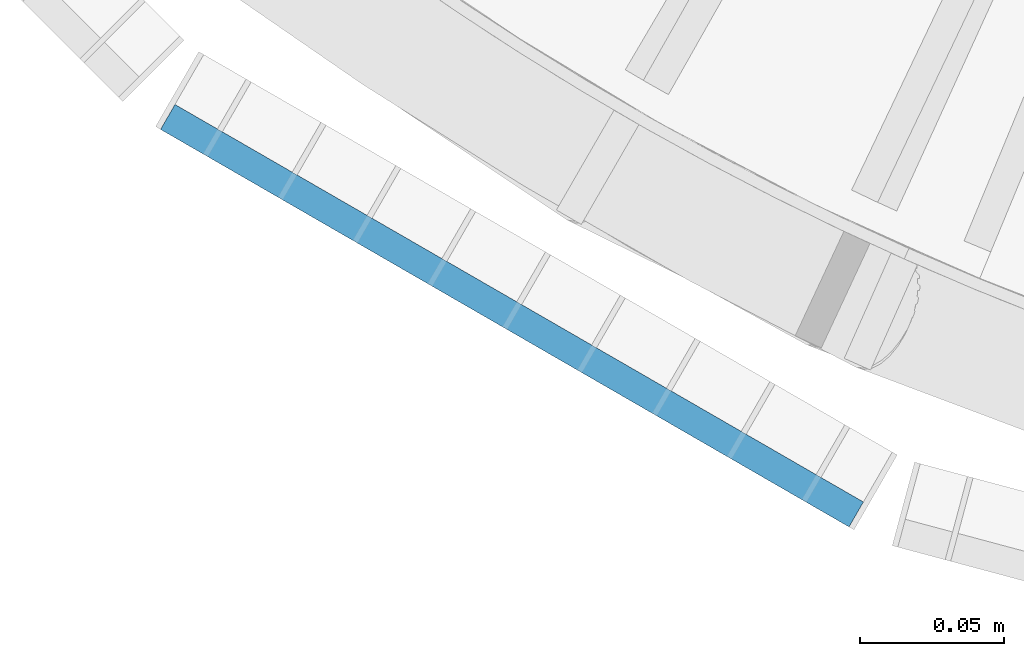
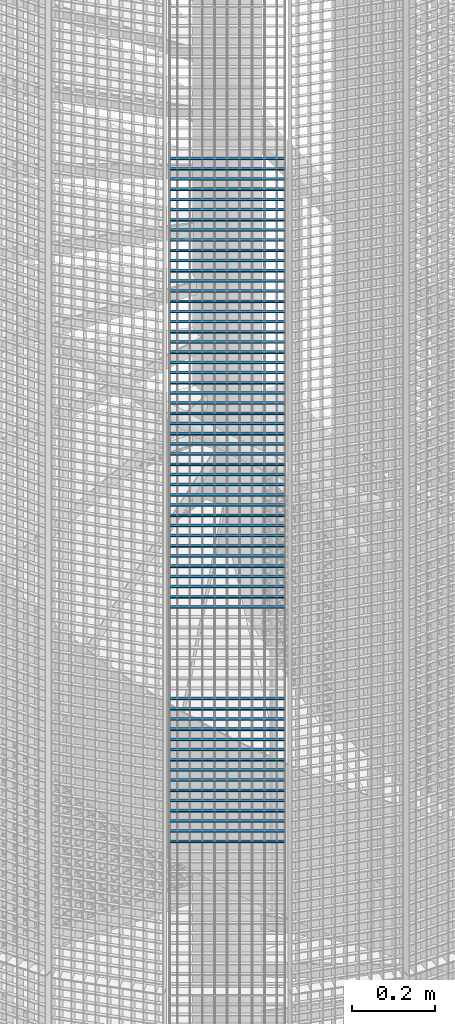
# One storey, part 329 of 1148: 60 beams, 1 element without a shape of its own.
"""IFC2X3 building model written with IfcOpenShell, lengths in millimetres."""

from ifc_helpers import new_model, si_unit, frame, origin_with_axes, origin_2d_with_axis, place, context, subcontext, project, spatial, rectangle, extrude, material, type_object, element, aggregate, save


model = new_model("IFC2X3")

# Units and contexts
model_context = context("Model", 3, precision=1e-05, world=origin_with_axes())
body_context = subcontext(model_context, "Body", "Model", "MODEL_VIEW")
ifc_project = project(units=[si_unit("LENGTHUNIT", "METRE", prefix="MILLI"), si_unit("AREAUNIT", "SQUARE_METRE"), si_unit("VOLUMEUNIT", "CUBIC_METRE"), si_unit("MASSUNIT", "GRAM", prefix="KILO"), si_unit("TIMEUNIT", "SECOND"), si_unit("PLANEANGLEUNIT", "RADIAN"), si_unit("SOLIDANGLEUNIT", "STERADIAN"), si_unit("THERMODYNAMICTEMPERATUREUNIT", "DEGREE_CELSIUS"), si_unit("LUMINOUSINTENSITYUNIT", "LUMEN")], contexts=[model_context])

# Site, building, storey
site_placement = place(None, origin_with_axes())
site = spatial("IfcSite", under=ifc_project, at=site_placement, Name="Undefined", CompositionType="ELEMENT")
building_placement = place(site_placement, origin_with_axes())
building = spatial("IfcBuilding", under=site, at=building_placement, Name="Undefined", CompositionType="ELEMENT")
storey_placement = place(building_placement, origin_with_axes())
storey = spatial("IfcBuildingStorey", under=building, at=storey_placement, Name="Undefined", CompositionType="ELEMENT", Elevation=0.0)

# Assembly, beams
assembly_placement = place(storey_placement, origin_with_axes())
assembly = element("IfcElementAssembly", 1, at=assembly_placement, inside=storey, Name="BORDURE", AssemblyPlace="NOTDEFINED", PredefinedType="NOTDEFINED")
ifc_material = material(Name="STEEL/S235JR")
beam_type = type_object("IfcBeamType", Name="PL2*10", PredefinedType="NOTDEFINED")
beam_1_placement = place(assembly_placement, frame((21162.7680445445, -1033.29996828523, 17460.0), z_axis=(-0.49999999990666, -0.866025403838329, 0.0), x_axis=(-0.866025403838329, 0.499999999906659, 0.0)))
beam_1 = element("IfcBeam", 2, at=beam_1_placement, type_object=beam_type, material=ifc_material, Name="ENTRETOISE", context=body_context, shape_type="SweptSolid", body=[
    extrude(rectangle(XDim=2.0, YDim=10.0, at=origin_2d_with_axis()), frame((275.999999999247, 9.09494701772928e-13, 1.53210777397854e-14), z_axis=(-1.0, 0.0, 0.0), x_axis=(0.0, -1.0, 0.0)), (0.0, 0.0, 1.0), 276.0),
])
beam_2_placement = place(assembly_placement, frame((21162.7680445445, -1033.29996828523, 17430.0), z_axis=(-0.49999999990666, -0.866025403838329, 0.0), x_axis=(-0.866025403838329, 0.499999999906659, 0.0)))
beam_2 = element("IfcBeam", 3, at=beam_2_placement, type_object=beam_type, material=ifc_material, Name="ENTRETOISE", context=body_context, shape_type="SweptSolid", body=[
    extrude(rectangle(XDim=2.0, YDim=10.0, at=origin_2d_with_axis()), frame((275.999999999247, 9.09494701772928e-13, 1.53210777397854e-14), z_axis=(-1.0, 0.0, 0.0), x_axis=(0.0, -1.0, 0.0)), (0.0, 0.0, 1.0), 276.0),
])
beam_3_placement = place(assembly_placement, frame((21162.7680445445, -1033.29996828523, 17400.0), z_axis=(-0.49999999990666, -0.866025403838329, 0.0), x_axis=(-0.866025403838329, 0.499999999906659, 0.0)))
beam_3 = element("IfcBeam", 4, at=beam_3_placement, type_object=beam_type, material=ifc_material, Name="ENTRETOISE", context=body_context, shape_type="SweptSolid", body=[
    extrude(rectangle(XDim=2.0, YDim=10.0, at=origin_2d_with_axis()), frame((275.999999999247, 9.09494701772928e-13, 1.53210777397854e-14), z_axis=(-1.0, 0.0, 0.0), x_axis=(0.0, -1.0, 0.0)), (0.0, 0.0, 1.0), 276.0),
])
beam_4_placement = place(assembly_placement, frame((21162.7680445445, -1033.29996828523, 17370.0), z_axis=(-0.49999999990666, -0.866025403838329, 0.0), x_axis=(-0.866025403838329, 0.499999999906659, 0.0)))
beam_4 = element("IfcBeam", 5, at=beam_4_placement, type_object=beam_type, material=ifc_material, Name="ENTRETOISE", context=body_context, shape_type="SweptSolid", body=[
    extrude(rectangle(XDim=2.0, YDim=10.0, at=origin_2d_with_axis()), frame((275.999999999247, 9.09494701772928e-13, 1.53210777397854e-14), z_axis=(-1.0, 0.0, 0.0), x_axis=(0.0, -1.0, 0.0)), (0.0, 0.0, 1.0), 276.0),
])
beam_5_placement = place(assembly_placement, frame((21162.7680445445, -1033.29996828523, 17340.0), z_axis=(-0.49999999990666, -0.866025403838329, 0.0), x_axis=(-0.866025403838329, 0.499999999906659, 0.0)))
beam_5 = element("IfcBeam", 6, at=beam_5_placement, type_object=beam_type, material=ifc_material, Name="ENTRETOISE", context=body_context, shape_type="SweptSolid", body=[
    extrude(rectangle(XDim=2.0, YDim=10.0, at=origin_2d_with_axis()), frame((275.999999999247, 9.09494701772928e-13, 1.53210777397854e-14), z_axis=(-1.0, 0.0, 0.0), x_axis=(0.0, -1.0, 0.0)), (0.0, 0.0, 1.0), 276.0),
])
beam_6_placement = place(assembly_placement, frame((21162.7680445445, -1033.29996828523, 17310.0), z_axis=(-0.49999999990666, -0.866025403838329, 0.0), x_axis=(-0.866025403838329, 0.499999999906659, 0.0)))
beam_6 = element("IfcBeam", 7, at=beam_6_placement, type_object=beam_type, material=ifc_material, Name="ENTRETOISE", context=body_context, shape_type="SweptSolid", body=[
    extrude(rectangle(XDim=2.0, YDim=10.0, at=origin_2d_with_axis()), frame((275.999999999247, 9.09494701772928e-13, 1.53210777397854e-14), z_axis=(-1.0, 0.0, 0.0), x_axis=(0.0, -1.0, 0.0)), (0.0, 0.0, 1.0), 276.0),
])
beam_7_placement = place(assembly_placement, frame((21162.7680445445, -1033.29996828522, 17280.0), z_axis=(-0.49999999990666, -0.866025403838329, 0.0), x_axis=(-0.866025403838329, 0.499999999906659, 0.0)))
beam_7 = element("IfcBeam", 8, at=beam_7_placement, type_object=beam_type, material=ifc_material, Name="ENTRETOISE", context=body_context, shape_type="SweptSolid", body=[
    extrude(rectangle(XDim=2.0, YDim=10.0, at=origin_2d_with_axis()), frame((275.999999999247, 9.09494701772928e-13, 1.53210777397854e-14), z_axis=(-1.0, 0.0, 0.0), x_axis=(0.0, -1.0, 0.0)), (0.0, 0.0, 1.0), 276.0),
])
beam_8_placement = place(assembly_placement, frame((21162.7680445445, -1033.29996828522, 17250.0), z_axis=(-0.49999999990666, -0.866025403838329, 0.0), x_axis=(-0.866025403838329, 0.499999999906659, 0.0)))
beam_8 = element("IfcBeam", 9, at=beam_8_placement, type_object=beam_type, material=ifc_material, Name="ENTRETOISE", context=body_context, shape_type="SweptSolid", body=[
    extrude(rectangle(XDim=2.0, YDim=10.0, at=origin_2d_with_axis()), frame((275.999999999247, 9.09494701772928e-13, 1.53210777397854e-14), z_axis=(-1.0, 0.0, 0.0), x_axis=(0.0, -1.0, 0.0)), (0.0, 0.0, 1.0), 276.0),
])
beam_9_placement = place(assembly_placement, frame((21162.7680445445, -1033.29996828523, 17220.0), z_axis=(-0.49999999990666, -0.866025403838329, 0.0), x_axis=(-0.866025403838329, 0.499999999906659, 0.0)))
beam_9 = element("IfcBeam", 10, at=beam_9_placement, type_object=beam_type, material=ifc_material, Name="ENTRETOISE", context=body_context, shape_type="SweptSolid", body=[
    extrude(rectangle(XDim=2.0, YDim=10.0, at=origin_2d_with_axis()), frame((275.999999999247, 9.09494701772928e-13, 1.53210777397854e-14), z_axis=(-1.0, 0.0, 0.0), x_axis=(0.0, -1.0, 0.0)), (0.0, 0.0, 1.0), 276.0),
])
beam_10_placement = place(assembly_placement, frame((21162.7680445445, -1033.29996828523, 17190.0), z_axis=(-0.49999999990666, -0.866025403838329, 0.0), x_axis=(-0.866025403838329, 0.499999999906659, 0.0)))
beam_10 = element("IfcBeam", 11, at=beam_10_placement, type_object=beam_type, material=ifc_material, Name="ENTRETOISE", context=body_context, shape_type="SweptSolid", body=[
    extrude(rectangle(XDim=2.0, YDim=10.0, at=origin_2d_with_axis()), frame((275.999999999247, 9.09494701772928e-13, 1.53210777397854e-14), z_axis=(-1.0, 0.0, 0.0), x_axis=(0.0, -1.0, 0.0)), (0.0, 0.0, 1.0), 276.0),
])
beam_11_placement = place(assembly_placement, frame((21162.7680445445, -1033.29996828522, 17160.0), z_axis=(-0.49999999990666, -0.866025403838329, 0.0), x_axis=(-0.866025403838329, 0.499999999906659, 0.0)))
beam_11 = element("IfcBeam", 12, at=beam_11_placement, type_object=beam_type, material=ifc_material, Name="ENTRETOISE", context=body_context, shape_type="SweptSolid", body=[
    extrude(rectangle(XDim=2.0, YDim=10.0, at=origin_2d_with_axis()), frame((275.999999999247, 9.09494701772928e-13, 1.53210777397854e-14), z_axis=(-1.0, 0.0, 0.0), x_axis=(0.0, -1.0, 0.0)), (0.0, 0.0, 1.0), 276.0),
])
beam_12_placement = place(assembly_placement, frame((21162.7680445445, -1033.29996828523, 17130.0), z_axis=(-0.49999999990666, -0.866025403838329, 0.0), x_axis=(-0.866025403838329, 0.499999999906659, 0.0)))
beam_12 = element("IfcBeam", 13, at=beam_12_placement, type_object=beam_type, material=ifc_material, Name="ENTRETOISE", context=body_context, shape_type="SweptSolid", body=[
    extrude(rectangle(XDim=2.0, YDim=10.0, at=origin_2d_with_axis()), frame((275.999999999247, 9.09494701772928e-13, 1.53210777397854e-14), z_axis=(-1.0, 0.0, 0.0), x_axis=(0.0, -1.0, 0.0)), (0.0, 0.0, 1.0), 276.0),
])
beam_13_placement = place(assembly_placement, frame((21162.7680445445, -1033.29996828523, 17100.0), z_axis=(-0.49999999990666, -0.866025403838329, 0.0), x_axis=(-0.866025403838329, 0.499999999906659, 0.0)))
beam_13 = element("IfcBeam", 14, at=beam_13_placement, type_object=beam_type, material=ifc_material, Name="ENTRETOISE", context=body_context, shape_type="SweptSolid", body=[
    extrude(rectangle(XDim=2.0, YDim=10.0, at=origin_2d_with_axis()), frame((275.999999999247, 9.09494701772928e-13, 1.53210777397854e-14), z_axis=(-1.0, 0.0, 0.0), x_axis=(0.0, -1.0, 0.0)), (0.0, 0.0, 1.0), 276.0),
])
beam_14_placement = place(assembly_placement, frame((21162.7680445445, -1033.29996828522, 17070.0), z_axis=(-0.49999999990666, -0.866025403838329, 0.0), x_axis=(-0.866025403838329, 0.499999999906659, 0.0)))
beam_14 = element("IfcBeam", 15, at=beam_14_placement, type_object=beam_type, material=ifc_material, Name="ENTRETOISE", context=body_context, shape_type="SweptSolid", body=[
    extrude(rectangle(XDim=2.0, YDim=10.0, at=origin_2d_with_axis()), frame((275.999999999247, 9.09494701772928e-13, 1.53210777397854e-14), z_axis=(-1.0, 0.0, 0.0), x_axis=(0.0, -1.0, 0.0)), (0.0, 0.0, 1.0), 276.0),
])
beam_15_placement = place(assembly_placement, frame((21162.7680445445, -1033.29996828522, 17040.0), z_axis=(-0.49999999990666, -0.866025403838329, 0.0), x_axis=(-0.866025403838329, 0.499999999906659, 0.0)))
beam_15 = element("IfcBeam", 16, at=beam_15_placement, type_object=beam_type, material=ifc_material, Name="ENTRETOISE", context=body_context, shape_type="SweptSolid", body=[
    extrude(rectangle(XDim=2.0, YDim=10.0, at=origin_2d_with_axis()), frame((275.999999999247, 9.09494701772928e-13, 1.53210777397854e-14), z_axis=(-1.0, 0.0, 0.0), x_axis=(0.0, -1.0, 0.0)), (0.0, 0.0, 1.0), 276.0),
])
beam_16_placement = place(assembly_placement, frame((21162.7680445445, -1033.29996828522, 17010.0), z_axis=(-0.49999999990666, -0.866025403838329, 0.0), x_axis=(-0.866025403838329, 0.499999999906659, 0.0)))
beam_16 = element("IfcBeam", 17, at=beam_16_placement, type_object=beam_type, material=ifc_material, Name="ENTRETOISE", context=body_context, shape_type="SweptSolid", body=[
    extrude(rectangle(XDim=2.0, YDim=10.0, at=origin_2d_with_axis()), frame((275.999999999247, 9.09494701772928e-13, 1.53210777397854e-14), z_axis=(-1.0, 0.0, 0.0), x_axis=(0.0, -1.0, 0.0)), (0.0, 0.0, 1.0), 276.0),
])
beam_17_placement = place(assembly_placement, frame((21162.7680445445, -1033.29996828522, 16980.0), z_axis=(-0.49999999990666, -0.866025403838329, 0.0), x_axis=(-0.866025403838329, 0.499999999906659, 0.0)))
beam_17 = element("IfcBeam", 18, at=beam_17_placement, type_object=beam_type, material=ifc_material, Name="ENTRETOISE", context=body_context, shape_type="SweptSolid", body=[
    extrude(rectangle(XDim=2.0, YDim=10.0, at=origin_2d_with_axis()), frame((275.999999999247, 9.09494701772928e-13, 1.53210777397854e-14), z_axis=(-1.0, 0.0, 0.0), x_axis=(0.0, -1.0, 0.0)), (0.0, 0.0, 1.0), 276.0),
])
beam_18_placement = place(assembly_placement, frame((21162.7680445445, -1033.29996828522, 16950.0), z_axis=(-0.49999999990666, -0.866025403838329, 0.0), x_axis=(-0.866025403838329, 0.499999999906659, 0.0)))
beam_18 = element("IfcBeam", 19, at=beam_18_placement, type_object=beam_type, material=ifc_material, Name="ENTRETOISE", context=body_context, shape_type="SweptSolid", body=[
    extrude(rectangle(XDim=2.0, YDim=10.0, at=origin_2d_with_axis()), frame((275.999999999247, 9.09494701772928e-13, 1.53210777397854e-14), z_axis=(-1.0, 0.0, 0.0), x_axis=(0.0, -1.0, 0.0)), (0.0, 0.0, 1.0), 276.0),
])
beam_19_placement = place(assembly_placement, frame((21162.7680445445, -1033.29996828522, 16920.0), z_axis=(-0.49999999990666, -0.866025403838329, 0.0), x_axis=(-0.866025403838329, 0.499999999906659, 0.0)))
beam_19 = element("IfcBeam", 20, at=beam_19_placement, type_object=beam_type, material=ifc_material, Name="ENTRETOISE", context=body_context, shape_type="SweptSolid", body=[
    extrude(rectangle(XDim=2.0, YDim=10.0, at=origin_2d_with_axis()), frame((275.999999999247, 9.09494701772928e-13, 1.53210777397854e-14), z_axis=(-1.0, 0.0, 0.0), x_axis=(0.0, -1.0, 0.0)), (0.0, 0.0, 1.0), 276.0),
])
beam_20_placement = place(assembly_placement, frame((21162.7680445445, -1033.29996828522, 16890.0), z_axis=(-0.49999999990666, -0.866025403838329, 0.0), x_axis=(-0.866025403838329, 0.499999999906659, 0.0)))
beam_20 = element("IfcBeam", 21, at=beam_20_placement, type_object=beam_type, material=ifc_material, Name="ENTRETOISE", context=body_context, shape_type="SweptSolid", body=[
    extrude(rectangle(XDim=2.0, YDim=10.0, at=origin_2d_with_axis()), frame((275.999999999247, 9.09494701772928e-13, 1.53210777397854e-14), z_axis=(-1.0, 0.0, 0.0), x_axis=(0.0, -1.0, 0.0)), (0.0, 0.0, 1.0), 276.0),
])
beam_21_placement = place(assembly_placement, frame((21162.7680445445, -1033.29996828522, 16860.0), z_axis=(-0.49999999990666, -0.866025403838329, 0.0), x_axis=(-0.866025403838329, 0.499999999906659, 0.0)))
beam_21 = element("IfcBeam", 22, at=beam_21_placement, type_object=beam_type, material=ifc_material, Name="ENTRETOISE", context=body_context, shape_type="SweptSolid", body=[
    extrude(rectangle(XDim=2.0, YDim=10.0, at=origin_2d_with_axis()), frame((275.999999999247, 9.09494701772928e-13, 1.53210777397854e-14), z_axis=(-1.0, 0.0, 0.0), x_axis=(0.0, -1.0, 0.0)), (0.0, 0.0, 1.0), 276.0),
])
beam_22_placement = place(assembly_placement, frame((21162.7680445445, -1033.29996828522, 16830.0), z_axis=(-0.49999999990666, -0.866025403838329, 0.0), x_axis=(-0.866025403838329, 0.499999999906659, 0.0)))
beam_22 = element("IfcBeam", 23, at=beam_22_placement, type_object=beam_type, material=ifc_material, Name="ENTRETOISE", context=body_context, shape_type="SweptSolid", body=[
    extrude(rectangle(XDim=2.0, YDim=10.0, at=origin_2d_with_axis()), frame((275.999999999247, 9.09494701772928e-13, 1.53210777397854e-14), z_axis=(-1.0, 0.0, 0.0), x_axis=(0.0, -1.0, 0.0)), (0.0, 0.0, 1.0), 276.0),
])
beam_23_placement = place(assembly_placement, frame((21162.7680445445, -1033.29996828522, 16800.0), z_axis=(-0.49999999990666, -0.866025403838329, 0.0), x_axis=(-0.866025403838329, 0.499999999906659, 0.0)))
beam_23 = element("IfcBeam", 24, at=beam_23_placement, type_object=beam_type, material=ifc_material, Name="ENTRETOISE", context=body_context, shape_type="SweptSolid", body=[
    extrude(rectangle(XDim=2.0, YDim=10.0, at=origin_2d_with_axis()), frame((275.999999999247, 9.09494701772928e-13, 1.53210777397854e-14), z_axis=(-1.0, 0.0, 0.0), x_axis=(0.0, -1.0, 0.0)), (0.0, 0.0, 1.0), 276.0),
])
beam_24_placement = place(assembly_placement, frame((21162.7680445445, -1033.29996828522, 16770.0), z_axis=(-0.49999999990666, -0.866025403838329, 0.0), x_axis=(-0.866025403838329, 0.499999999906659, 0.0)))
beam_24 = element("IfcBeam", 25, at=beam_24_placement, type_object=beam_type, material=ifc_material, Name="ENTRETOISE", context=body_context, shape_type="SweptSolid", body=[
    extrude(rectangle(XDim=2.0, YDim=10.0, at=origin_2d_with_axis()), frame((275.999999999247, 9.09494701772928e-13, 1.53210777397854e-14), z_axis=(-1.0, 0.0, 0.0), x_axis=(0.0, -1.0, 0.0)), (0.0, 0.0, 1.0), 276.0),
])
beam_25_placement = place(assembly_placement, frame((21162.7680445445, -1033.29996828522, 16740.0), z_axis=(-0.49999999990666, -0.866025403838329, 0.0), x_axis=(-0.866025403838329, 0.499999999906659, 0.0)))
beam_25 = element("IfcBeam", 26, at=beam_25_placement, type_object=beam_type, material=ifc_material, Name="ENTRETOISE", context=body_context, shape_type="SweptSolid", body=[
    extrude(rectangle(XDim=2.0, YDim=10.0, at=origin_2d_with_axis()), frame((275.999999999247, 9.09494701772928e-13, 1.53210777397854e-14), z_axis=(-1.0, 0.0, 0.0), x_axis=(0.0, -1.0, 0.0)), (0.0, 0.0, 1.0), 276.0),
])
beam_26_placement = place(assembly_placement, frame((21162.7680445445, -1033.29996828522, 16710.0), z_axis=(-0.49999999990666, -0.866025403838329, 0.0), x_axis=(-0.866025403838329, 0.499999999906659, 0.0)))
beam_26 = element("IfcBeam", 27, at=beam_26_placement, type_object=beam_type, material=ifc_material, Name="ENTRETOISE", context=body_context, shape_type="SweptSolid", body=[
    extrude(rectangle(XDim=2.0, YDim=10.0, at=origin_2d_with_axis()), frame((275.999999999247, 9.09494701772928e-13, 1.53210777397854e-14), z_axis=(-1.0, 0.0, 0.0), x_axis=(0.0, -1.0, 0.0)), (0.0, 0.0, 1.0), 276.0),
])
beam_27_placement = place(assembly_placement, frame((21162.7680445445, -1033.29996828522, 16680.0), z_axis=(-0.49999999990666, -0.866025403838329, 0.0), x_axis=(-0.866025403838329, 0.499999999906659, 0.0)))
beam_27 = element("IfcBeam", 28, at=beam_27_placement, type_object=beam_type, material=ifc_material, Name="ENTRETOISE", context=body_context, shape_type="SweptSolid", body=[
    extrude(rectangle(XDim=2.0, YDim=10.0, at=origin_2d_with_axis()), frame((275.999999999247, 9.09494701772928e-13, 1.53210777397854e-14), z_axis=(-1.0, 0.0, 0.0), x_axis=(0.0, -1.0, 0.0)), (0.0, 0.0, 1.0), 276.0),
])
beam_28_placement = place(assembly_placement, frame((21162.7680445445, -1033.29996828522, 16650.0), z_axis=(-0.49999999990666, -0.866025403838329, 0.0), x_axis=(-0.866025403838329, 0.499999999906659, 0.0)))
beam_28 = element("IfcBeam", 29, at=beam_28_placement, type_object=beam_type, material=ifc_material, Name="ENTRETOISE", context=body_context, shape_type="SweptSolid", body=[
    extrude(rectangle(XDim=2.0, YDim=10.0, at=origin_2d_with_axis()), frame((275.999999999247, 9.09494701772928e-13, 1.53210777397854e-14), z_axis=(-1.0, 0.0, 0.0), x_axis=(0.0, -1.0, 0.0)), (0.0, 0.0, 1.0), 276.0),
])
beam_29_placement = place(assembly_placement, frame((21162.7680445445, -1033.29996828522, 16620.0), z_axis=(-0.49999999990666, -0.866025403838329, 0.0), x_axis=(-0.866025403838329, 0.499999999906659, 0.0)))
beam_29 = element("IfcBeam", 30, at=beam_29_placement, type_object=beam_type, material=ifc_material, Name="ENTRETOISE", context=body_context, shape_type="SweptSolid", body=[
    extrude(rectangle(XDim=2.0, YDim=10.0, at=origin_2d_with_axis()), frame((275.999999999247, 9.09494701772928e-13, 1.53210777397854e-14), z_axis=(-1.0, 0.0, 0.0), x_axis=(0.0, -1.0, 0.0)), (0.0, 0.0, 1.0), 276.0),
])
beam_30_placement = place(assembly_placement, frame((21162.7680445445, -1033.29996828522, 16590.0), z_axis=(-0.49999999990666, -0.866025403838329, 0.0), x_axis=(-0.866025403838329, 0.499999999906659, 0.0)))
beam_30 = element("IfcBeam", 31, at=beam_30_placement, type_object=beam_type, material=ifc_material, Name="ENTRETOISE", context=body_context, shape_type="SweptSolid", body=[
    extrude(rectangle(XDim=2.0, YDim=10.0, at=origin_2d_with_axis()), frame((275.999999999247, 9.09494701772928e-13, 1.53210777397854e-14), z_axis=(-1.0, 0.0, 0.0), x_axis=(0.0, -1.0, 0.0)), (0.0, 0.0, 1.0), 276.0),
])
beam_31_placement = place(assembly_placement, frame((21162.7680445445, -1033.29996828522, 16560.0), z_axis=(-0.49999999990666, -0.866025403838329, 0.0), x_axis=(-0.866025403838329, 0.499999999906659, 0.0)))
beam_31 = element("IfcBeam", 32, at=beam_31_placement, type_object=beam_type, material=ifc_material, Name="ENTRETOISE", context=body_context, shape_type="SweptSolid", body=[
    extrude(rectangle(XDim=2.0, YDim=10.0, at=origin_2d_with_axis()), frame((275.999999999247, 9.09494701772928e-13, 1.53210777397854e-14), z_axis=(-1.0, 0.0, 0.0), x_axis=(0.0, -1.0, 0.0)), (0.0, 0.0, 1.0), 276.0),
])
beam_32_placement = place(assembly_placement, frame((21162.7680445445, -1033.29996828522, 16530.0), z_axis=(-0.49999999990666, -0.866025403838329, 0.0), x_axis=(-0.866025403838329, 0.499999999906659, 0.0)))
beam_32 = element("IfcBeam", 33, at=beam_32_placement, type_object=beam_type, material=ifc_material, Name="ENTRETOISE", context=body_context, shape_type="SweptSolid", body=[
    extrude(rectangle(XDim=2.0, YDim=10.0, at=origin_2d_with_axis()), frame((275.999999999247, 9.09494701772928e-13, 1.53210777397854e-14), z_axis=(-1.0, 0.0, 0.0), x_axis=(0.0, -1.0, 0.0)), (0.0, 0.0, 1.0), 276.0),
])
beam_33_placement = place(assembly_placement, frame((21162.7680445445, -1033.29996828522, 16500.0), z_axis=(-0.49999999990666, -0.866025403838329, 0.0), x_axis=(-0.866025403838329, 0.499999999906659, 0.0)))
beam_33 = element("IfcBeam", 34, at=beam_33_placement, type_object=beam_type, material=ifc_material, Name="ENTRETOISE", context=body_context, shape_type="SweptSolid", body=[
    extrude(rectangle(XDim=2.0, YDim=10.0, at=origin_2d_with_axis()), frame((275.999999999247, 9.09494701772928e-13, 1.53210777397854e-14), z_axis=(-1.0, 0.0, 0.0), x_axis=(0.0, -1.0, 0.0)), (0.0, 0.0, 1.0), 276.0),
])
beam_34_placement = place(assembly_placement, frame((21162.7680445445, -1033.29996828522, 16470.0), z_axis=(-0.49999999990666, -0.866025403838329, 0.0), x_axis=(-0.866025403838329, 0.499999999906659, 0.0)))
beam_34 = element("IfcBeam", 35, at=beam_34_placement, type_object=beam_type, material=ifc_material, Name="ENTRETOISE", context=body_context, shape_type="SweptSolid", body=[
    extrude(rectangle(XDim=2.0, YDim=10.0, at=origin_2d_with_axis()), frame((275.999999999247, 9.09494701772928e-13, 1.53210777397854e-14), z_axis=(-1.0, 0.0, 0.0), x_axis=(0.0, -1.0, 0.0)), (0.0, 0.0, 1.0), 276.0),
])
beam_35_placement = place(assembly_placement, frame((21162.7680445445, -1033.29996828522, 16440.0), z_axis=(-0.49999999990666, -0.866025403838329, 0.0), x_axis=(-0.866025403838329, 0.499999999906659, 0.0)))
beam_35 = element("IfcBeam", 36, at=beam_35_placement, type_object=beam_type, material=ifc_material, Name="ENTRETOISE", context=body_context, shape_type="SweptSolid", body=[
    extrude(rectangle(XDim=2.0, YDim=10.0, at=origin_2d_with_axis()), frame((275.999999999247, 9.09494701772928e-13, 1.53210777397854e-14), z_axis=(-1.0, 0.0, 0.0), x_axis=(0.0, -1.0, 0.0)), (0.0, 0.0, 1.0), 276.0),
])
beam_36_placement = place(assembly_placement, frame((21162.7680445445, -1033.29996828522, 16410.0), z_axis=(-0.49999999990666, -0.866025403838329, 0.0), x_axis=(-0.866025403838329, 0.499999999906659, 0.0)))
beam_36 = element("IfcBeam", 37, at=beam_36_placement, type_object=beam_type, material=ifc_material, Name="ENTRETOISE", context=body_context, shape_type="SweptSolid", body=[
    extrude(rectangle(XDim=2.0, YDim=10.0, at=origin_2d_with_axis()), frame((275.999999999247, 9.09494701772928e-13, 1.53210777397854e-14), z_axis=(-1.0, 0.0, 0.0), x_axis=(0.0, -1.0, 0.0)), (0.0, 0.0, 1.0), 276.0),
])
beam_37_placement = place(assembly_placement, frame((21162.7680445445, -1033.29996828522, 16380.0), z_axis=(-0.49999999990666, -0.866025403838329, 0.0), x_axis=(-0.866025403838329, 0.499999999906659, 0.0)))
beam_37 = element("IfcBeam", 38, at=beam_37_placement, type_object=beam_type, material=ifc_material, Name="ENTRETOISE", context=body_context, shape_type="SweptSolid", body=[
    extrude(rectangle(XDim=2.0, YDim=10.0, at=origin_2d_with_axis()), frame((275.999999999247, 9.09494701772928e-13, 1.53210777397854e-14), z_axis=(-1.0, 0.0, 0.0), x_axis=(0.0, -1.0, 0.0)), (0.0, 0.0, 1.0), 276.0),
])
beam_38_placement = place(assembly_placement, frame((21162.7680445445, -1033.29996828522, 16350.0), z_axis=(-0.49999999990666, -0.866025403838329, 0.0), x_axis=(-0.866025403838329, 0.499999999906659, 0.0)))
beam_38 = element("IfcBeam", 39, at=beam_38_placement, type_object=beam_type, material=ifc_material, Name="ENTRETOISE", context=body_context, shape_type="SweptSolid", body=[
    extrude(rectangle(XDim=2.0, YDim=10.0, at=origin_2d_with_axis()), frame((275.999999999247, 9.09494701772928e-13, 1.53210777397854e-14), z_axis=(-1.0, 0.0, 0.0), x_axis=(0.0, -1.0, 0.0)), (0.0, 0.0, 1.0), 276.0),
])
beam_39_placement = place(assembly_placement, frame((21162.7680445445, -1033.29996828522, 16320.0), z_axis=(-0.49999999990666, -0.866025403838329, 0.0), x_axis=(-0.866025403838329, 0.499999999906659, 0.0)))
beam_39 = element("IfcBeam", 40, at=beam_39_placement, type_object=beam_type, material=ifc_material, Name="ENTRETOISE", context=body_context, shape_type="SweptSolid", body=[
    extrude(rectangle(XDim=2.0, YDim=10.0, at=origin_2d_with_axis()), frame((275.999999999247, 9.09494701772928e-13, 1.53210777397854e-14), z_axis=(-1.0, 0.0, 0.0), x_axis=(0.0, -1.0, 0.0)), (0.0, 0.0, 1.0), 276.0),
])
beam_40_placement = place(assembly_placement, frame((21162.7680445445, -1033.29996828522, 16290.0), z_axis=(-0.49999999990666, -0.866025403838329, 0.0), x_axis=(-0.866025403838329, 0.499999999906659, 0.0)))
beam_40 = element("IfcBeam", 41, at=beam_40_placement, type_object=beam_type, material=ifc_material, Name="ENTRETOISE", context=body_context, shape_type="SweptSolid", body=[
    extrude(rectangle(XDim=2.0, YDim=10.0, at=origin_2d_with_axis()), frame((275.999999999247, 9.09494701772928e-13, 1.53210777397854e-14), z_axis=(-1.0, 0.0, 0.0), x_axis=(0.0, -1.0, 0.0)), (0.0, 0.0, 1.0), 276.0),
])
beam_41_placement = place(assembly_placement, frame((21162.7680445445, -1033.29996828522, 16260.0), z_axis=(-0.49999999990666, -0.866025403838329, 0.0), x_axis=(-0.866025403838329, 0.499999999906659, 0.0)))
beam_41 = element("IfcBeam", 42, at=beam_41_placement, type_object=beam_type, material=ifc_material, Name="ENTRETOISE", context=body_context, shape_type="SweptSolid", body=[
    extrude(rectangle(XDim=2.0, YDim=10.0, at=origin_2d_with_axis()), frame((275.999999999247, 9.09494701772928e-13, 1.53210777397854e-14), z_axis=(-1.0, 0.0, 0.0), x_axis=(0.0, -1.0, 0.0)), (0.0, 0.0, 1.0), 276.0),
])
beam_42_placement = place(assembly_placement, frame((21162.7680445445, -1033.29996828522, 16230.0), z_axis=(-0.49999999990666, -0.866025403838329, 0.0), x_axis=(-0.866025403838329, 0.499999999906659, 0.0)))
beam_42 = element("IfcBeam", 43, at=beam_42_placement, type_object=beam_type, material=ifc_material, Name="ENTRETOISE", context=body_context, shape_type="SweptSolid", body=[
    extrude(rectangle(XDim=2.0, YDim=10.0, at=origin_2d_with_axis()), frame((275.999999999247, 9.09494701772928e-13, 1.53210777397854e-14), z_axis=(-1.0, 0.0, 0.0), x_axis=(0.0, -1.0, 0.0)), (0.0, 0.0, 1.0), 276.0),
])
beam_43_placement = place(assembly_placement, frame((21162.7680445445, -1033.29996828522, 16200.0), z_axis=(-0.49999999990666, -0.866025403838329, 0.0), x_axis=(-0.866025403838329, 0.499999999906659, 0.0)))
beam_43 = element("IfcBeam", 44, at=beam_43_placement, type_object=beam_type, material=ifc_material, Name="ENTRETOISE", context=body_context, shape_type="SweptSolid", body=[
    extrude(rectangle(XDim=2.0, YDim=10.0, at=origin_2d_with_axis()), frame((275.999999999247, 9.09494701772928e-13, 1.53210777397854e-14), z_axis=(-1.0, 0.0, 0.0), x_axis=(0.0, -1.0, 0.0)), (0.0, 0.0, 1.0), 276.0),
])
beam_44_placement = place(assembly_placement, frame((21162.7680445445, -1033.29996828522, 16170.0), z_axis=(-0.49999999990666, -0.866025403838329, 0.0), x_axis=(-0.866025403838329, 0.499999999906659, 0.0)))
beam_44 = element("IfcBeam", 45, at=beam_44_placement, type_object=beam_type, material=ifc_material, Name="ENTRETOISE", context=body_context, shape_type="SweptSolid", body=[
    extrude(rectangle(XDim=2.0, YDim=10.0, at=origin_2d_with_axis()), frame((275.999999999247, 9.09494701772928e-13, 1.53210777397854e-14), z_axis=(-1.0, 0.0, 0.0), x_axis=(0.0, -1.0, 0.0)), (0.0, 0.0, 1.0), 276.0),
])
beam_45_placement = place(assembly_placement, frame((21162.7680445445, -1033.29996828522, 16140.0), z_axis=(-0.49999999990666, -0.866025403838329, 0.0), x_axis=(-0.866025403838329, 0.499999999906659, 0.0)))
beam_45 = element("IfcBeam", 46, at=beam_45_placement, type_object=beam_type, material=ifc_material, Name="ENTRETOISE", context=body_context, shape_type="SweptSolid", body=[
    extrude(rectangle(XDim=2.0, YDim=10.0, at=origin_2d_with_axis()), frame((275.999999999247, 9.09494701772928e-13, 1.53210777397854e-14), z_axis=(-1.0, 0.0, 0.0), x_axis=(0.0, -1.0, 0.0)), (0.0, 0.0, 1.0), 276.0),
])
beam_46_placement = place(assembly_placement, frame((21162.7680445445, -1033.29996828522, 15720.0), z_axis=(-0.49999999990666, -0.866025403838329, 0.0), x_axis=(-0.866025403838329, 0.499999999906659, 0.0)))
beam_46 = element("IfcBeam", 47, at=beam_46_placement, type_object=beam_type, material=ifc_material, Name="ENTRETOISE", context=body_context, shape_type="SweptSolid", body=[
    extrude(rectangle(XDim=2.0, YDim=10.0, at=origin_2d_with_axis()), frame((275.999999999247, 9.09494701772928e-13, 1.53210777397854e-14), z_axis=(-1.0, 0.0, 0.0), x_axis=(0.0, -1.0, 0.0)), (0.0, 0.0, 1.0), 276.0),
])
beam_47_placement = place(assembly_placement, frame((21162.7680445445, -1033.29996828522, 15690.0), z_axis=(-0.49999999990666, -0.866025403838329, 0.0), x_axis=(-0.866025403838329, 0.499999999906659, 0.0)))
beam_47 = element("IfcBeam", 48, at=beam_47_placement, type_object=beam_type, material=ifc_material, Name="ENTRETOISE", context=body_context, shape_type="SweptSolid", body=[
    extrude(rectangle(XDim=2.0, YDim=10.0, at=origin_2d_with_axis()), frame((275.999999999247, 9.09494701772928e-13, 1.53210777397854e-14), z_axis=(-1.0, 0.0, 0.0), x_axis=(0.0, -1.0, 0.0)), (0.0, 0.0, 1.0), 276.0),
])
beam_48_placement = place(assembly_placement, frame((21162.7680445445, -1033.29996828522, 15750.0), z_axis=(-0.49999999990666, -0.866025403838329, 0.0), x_axis=(-0.866025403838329, 0.499999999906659, 0.0)))
beam_48 = element("IfcBeam", 49, at=beam_48_placement, type_object=beam_type, material=ifc_material, Name="ENTRETOISE", context=body_context, shape_type="SweptSolid", body=[
    extrude(rectangle(XDim=2.0, YDim=10.0, at=origin_2d_with_axis()), frame((275.999999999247, 9.09494701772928e-13, 1.53210777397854e-14), z_axis=(-1.0, 0.0, 0.0), x_axis=(0.0, -1.0, 0.0)), (0.0, 0.0, 1.0), 276.0),
])
beam_49_placement = place(assembly_placement, frame((21162.7680445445, -1033.29996828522, 15660.0), z_axis=(-0.49999999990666, -0.866025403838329, 0.0), x_axis=(-0.866025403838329, 0.499999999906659, 0.0)))
beam_49 = element("IfcBeam", 50, at=beam_49_placement, type_object=beam_type, material=ifc_material, Name="ENTRETOISE", context=body_context, shape_type="SweptSolid", body=[
    extrude(rectangle(XDim=2.0, YDim=10.0, at=origin_2d_with_axis()), frame((275.999999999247, 9.09494701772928e-13, 1.53210777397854e-14), z_axis=(-1.0, 0.0, 0.0), x_axis=(0.0, -1.0, 0.0)), (0.0, 0.0, 1.0), 276.0),
])
beam_50_placement = place(assembly_placement, frame((21162.7680445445, -1033.29996828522, 15630.0), z_axis=(-0.49999999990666, -0.866025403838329, 0.0), x_axis=(-0.866025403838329, 0.499999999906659, 0.0)))
beam_50 = element("IfcBeam", 51, at=beam_50_placement, type_object=beam_type, material=ifc_material, Name="ENTRETOISE", context=body_context, shape_type="SweptSolid", body=[
    extrude(rectangle(XDim=2.0, YDim=10.0, at=origin_2d_with_axis()), frame((275.999999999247, 9.09494701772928e-13, 1.53210777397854e-14), z_axis=(-1.0, 0.0, 0.0), x_axis=(0.0, -1.0, 0.0)), (0.0, 0.0, 1.0), 276.0),
])
beam_51_placement = place(assembly_placement, frame((21162.7680445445, -1033.29996828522, 15780.0), z_axis=(-0.49999999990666, -0.866025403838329, 0.0), x_axis=(-0.866025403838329, 0.499999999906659, 0.0)))
beam_51 = element("IfcBeam", 52, at=beam_51_placement, type_object=beam_type, material=ifc_material, Name="ENTRETOISE", context=body_context, shape_type="SweptSolid", body=[
    extrude(rectangle(XDim=2.0, YDim=10.0, at=origin_2d_with_axis()), frame((275.999999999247, 9.09494701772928e-13, 1.53210777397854e-14), z_axis=(-1.0, 0.0, 0.0), x_axis=(0.0, -1.0, 0.0)), (0.0, 0.0, 1.0), 276.0),
])
beam_52_placement = place(assembly_placement, frame((21162.7680445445, -1033.29996828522, 15600.0), z_axis=(-0.49999999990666, -0.866025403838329, 0.0), x_axis=(-0.866025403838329, 0.499999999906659, 0.0)))
beam_52 = element("IfcBeam", 53, at=beam_52_placement, type_object=beam_type, material=ifc_material, Name="ENTRETOISE", context=body_context, shape_type="SweptSolid", body=[
    extrude(rectangle(XDim=2.0, YDim=10.0, at=origin_2d_with_axis()), frame((275.999999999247, 9.09494701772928e-13, 1.53210777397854e-14), z_axis=(-1.0, 0.0, 0.0), x_axis=(0.0, -1.0, 0.0)), (0.0, 0.0, 1.0), 276.0),
])
beam_53_placement = place(assembly_placement, frame((21162.7680445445, -1033.29996828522, 15810.0), z_axis=(-0.49999999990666, -0.866025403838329, 0.0), x_axis=(-0.866025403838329, 0.499999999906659, 0.0)))
beam_53 = element("IfcBeam", 54, at=beam_53_placement, type_object=beam_type, material=ifc_material, Name="ENTRETOISE", context=body_context, shape_type="SweptSolid", body=[
    extrude(rectangle(XDim=2.0, YDim=10.0, at=origin_2d_with_axis()), frame((275.999999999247, 9.09494701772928e-13, 1.53210777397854e-14), z_axis=(-1.0, 0.0, 0.0), x_axis=(0.0, -1.0, 0.0)), (0.0, 0.0, 1.0), 276.0),
])
beam_54_placement = place(assembly_placement, frame((21162.7680445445, -1033.29996828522, 15570.0), z_axis=(-0.49999999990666, -0.866025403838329, 0.0), x_axis=(-0.866025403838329, 0.499999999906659, 0.0)))
beam_54 = element("IfcBeam", 55, at=beam_54_placement, type_object=beam_type, material=ifc_material, Name="ENTRETOISE", context=body_context, shape_type="SweptSolid", body=[
    extrude(rectangle(XDim=2.0, YDim=10.0, at=origin_2d_with_axis()), frame((275.999999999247, 9.09494701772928e-13, 1.53210777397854e-14), z_axis=(-1.0, 0.0, 0.0), x_axis=(0.0, -1.0, 0.0)), (0.0, 0.0, 1.0), 276.0),
])
beam_55_placement = place(assembly_placement, frame((21162.7680445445, -1033.29996828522, 15540.0), z_axis=(-0.49999999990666, -0.866025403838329, 0.0), x_axis=(-0.866025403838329, 0.499999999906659, 0.0)))
beam_55 = element("IfcBeam", 56, at=beam_55_placement, type_object=beam_type, material=ifc_material, Name="ENTRETOISE", context=body_context, shape_type="SweptSolid", body=[
    extrude(rectangle(XDim=2.0, YDim=10.0, at=origin_2d_with_axis()), frame((275.999999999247, 9.09494701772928e-13, 1.53210777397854e-14), z_axis=(-1.0, 0.0, 0.0), x_axis=(0.0, -1.0, 0.0)), (0.0, 0.0, 1.0), 276.0),
])
beam_56_placement = place(assembly_placement, frame((21162.7680445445, -1033.29996828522, 15840.0), z_axis=(-0.49999999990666, -0.866025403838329, 0.0), x_axis=(-0.866025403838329, 0.499999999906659, 0.0)))
beam_56 = element("IfcBeam", 57, at=beam_56_placement, type_object=beam_type, material=ifc_material, Name="ENTRETOISE", context=body_context, shape_type="SweptSolid", body=[
    extrude(rectangle(XDim=2.0, YDim=10.0, at=origin_2d_with_axis()), frame((275.999999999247, 9.09494701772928e-13, 1.53210777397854e-14), z_axis=(-1.0, 0.0, 0.0), x_axis=(0.0, -1.0, 0.0)), (0.0, 0.0, 1.0), 276.0),
])
beam_57_placement = place(assembly_placement, frame((21162.7680445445, -1033.29996828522, 15510.0), z_axis=(-0.49999999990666, -0.866025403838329, 0.0), x_axis=(-0.866025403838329, 0.499999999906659, 0.0)))
beam_57 = element("IfcBeam", 58, at=beam_57_placement, type_object=beam_type, material=ifc_material, Name="ENTRETOISE", context=body_context, shape_type="SweptSolid", body=[
    extrude(rectangle(XDim=2.0, YDim=10.0, at=origin_2d_with_axis()), frame((275.999999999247, 9.09494701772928e-13, 1.53210777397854e-14), z_axis=(-1.0, 0.0, 0.0), x_axis=(0.0, -1.0, 0.0)), (0.0, 0.0, 1.0), 276.0),
])
beam_58_placement = place(assembly_placement, frame((21162.7680445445, -1033.29996828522, 15480.0), z_axis=(-0.49999999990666, -0.866025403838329, 0.0), x_axis=(-0.866025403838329, 0.499999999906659, 0.0)))
beam_58 = element("IfcBeam", 59, at=beam_58_placement, type_object=beam_type, material=ifc_material, Name="ENTRETOISE", context=body_context, shape_type="SweptSolid", body=[
    extrude(rectangle(XDim=2.0, YDim=10.0, at=origin_2d_with_axis()), frame((275.999999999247, 9.09494701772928e-13, 1.53210777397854e-14), z_axis=(-1.0, 0.0, 0.0), x_axis=(0.0, -1.0, 0.0)), (0.0, 0.0, 1.0), 276.0),
])
beam_59_placement = place(assembly_placement, frame((21162.7680445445, -1033.29996828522, 15870.0), z_axis=(-0.49999999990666, -0.866025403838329, 0.0), x_axis=(-0.866025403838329, 0.499999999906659, 0.0)))
beam_59 = element("IfcBeam", 60, at=beam_59_placement, type_object=beam_type, material=ifc_material, Name="ENTRETOISE", context=body_context, shape_type="SweptSolid", body=[
    extrude(rectangle(XDim=2.0, YDim=10.0, at=origin_2d_with_axis()), frame((275.999999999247, 9.09494701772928e-13, 1.53210777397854e-14), z_axis=(-1.0, 0.0, 0.0), x_axis=(0.0, -1.0, 0.0)), (0.0, 0.0, 1.0), 276.0),
])
beam_60_placement = place(assembly_placement, frame((21162.7680445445, -1033.29996828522, 15450.0), z_axis=(-0.49999999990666, -0.866025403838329, 0.0), x_axis=(-0.866025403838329, 0.499999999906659, 0.0)))
beam_60 = element("IfcBeam", 61, at=beam_60_placement, type_object=beam_type, material=ifc_material, Name="ENTRETOISE", context=body_context, shape_type="SweptSolid", body=[
    extrude(rectangle(XDim=2.0, YDim=10.0, at=origin_2d_with_axis()), frame((275.999999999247, 9.09494701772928e-13, 1.53210777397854e-14), z_axis=(-1.0, 0.0, 0.0), x_axis=(0.0, -1.0, 0.0)), (0.0, 0.0, 1.0), 276.0),
])
aggregate(assembly, [beam_1, beam_2, beam_3, beam_4, beam_5, beam_6, beam_7, beam_8, beam_9, beam_10, beam_11, beam_12, beam_13, beam_14, beam_15, beam_16, beam_17, beam_18, beam_19, beam_20, beam_21, beam_22, beam_23, beam_24, beam_25, beam_26, beam_27, beam_28, beam_29, beam_30, beam_31, beam_32, beam_33, beam_34, beam_35, beam_36, beam_37, beam_38, beam_39, beam_40, beam_41, beam_42, beam_43, beam_44, beam_45, beam_46, beam_47, beam_48, beam_49, beam_50, beam_51, beam_52, beam_53, beam_54, beam_55, beam_56, beam_57, beam_58, beam_59, beam_60])

save(model, "model.ifc")
